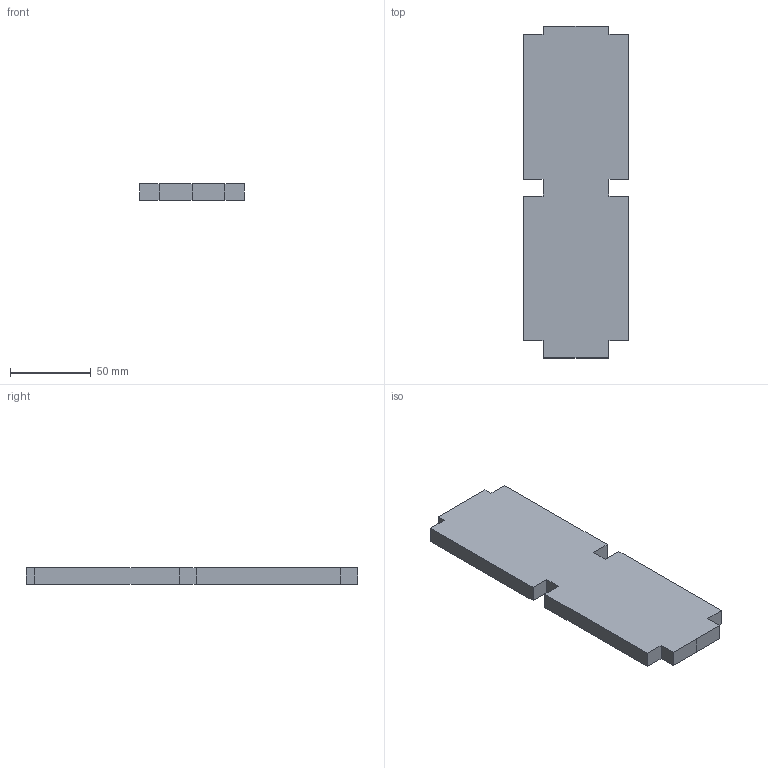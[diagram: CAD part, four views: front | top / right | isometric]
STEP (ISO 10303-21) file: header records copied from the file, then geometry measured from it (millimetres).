
FILE_DESCRIPTION(('CATIA V5 STEP Exchange'),'2;1');
FILE_NAME('C:\Users\gener\Documents\Lijadora Javitxu corte laser\Refuerzos horizontales.stp','2022-08-29T05:33:55+00:00',('none'),('none'),'CATIA Version 5 Release 20 GA (IN-10)','CATIA V5 STEP AP203','none');
FILE_SCHEMA(('CONFIG_CONTROL_DESIGN'));
Length unit declared in the file: millimetre
Products named in the file (1): Refuerzos horizontales
Bounding box: 64.8 x 205.32 x 10 mm (x, y, z)
Volume: 126776.6 mm3; surface area: 31237.6 mm2
Topology: 1 solids, 1 shells, 24 faces, 66 edges, 44 vertices
Faces by surface type: plane 24
Entity records: 732 total; most frequent: ORIENTED_EDGE 132, CARTESIAN_POINT 123, DIRECTION 90, VECTOR 66, EDGE_CURVE 66, LINE 66, VERTEX_POINT 44, ADVANCED_FACE 24
